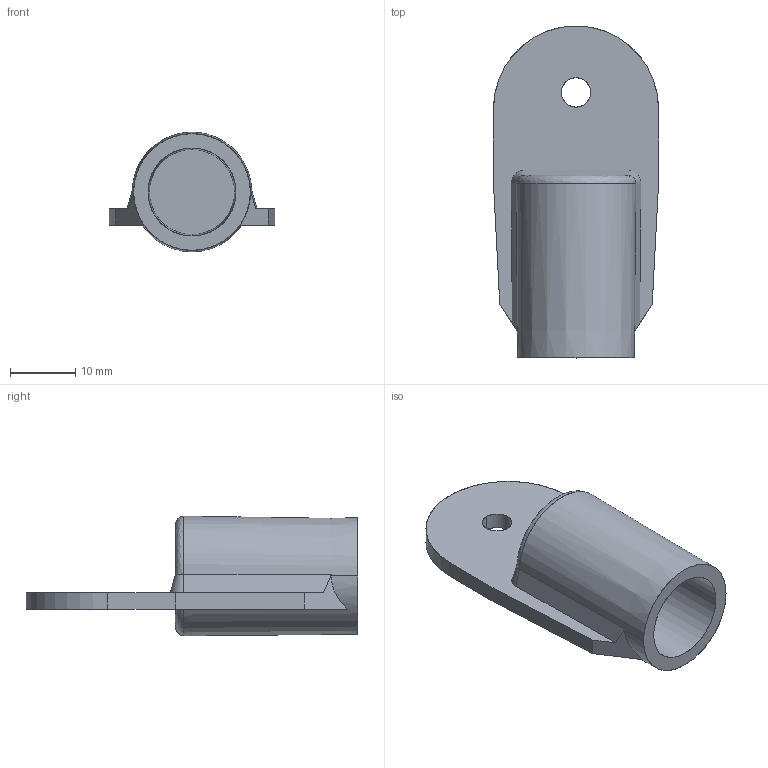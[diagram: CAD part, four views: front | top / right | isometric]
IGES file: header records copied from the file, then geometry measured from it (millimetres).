
Start section: SolidWorks IGES file using analytic representation for surfaces
Global section: file name: C:\Working\.5 Inch Coupling\DRP-002-0101-00.IGS; native system: SolidWorks 2010; preprocessor: SolidWorks 2010; author: mbush2; date: 100812.125048; units: inch
Bounding box: 25.4 x 50.8 x 18.31 mm (x, y, z)
Surface area: 4499 mm2 (no closed solid volume)
Topology: 0 solids, 0 shells, 29 faces, 387 edges, 387 vertices
Faces by surface type: bspline 21, revolution 8
